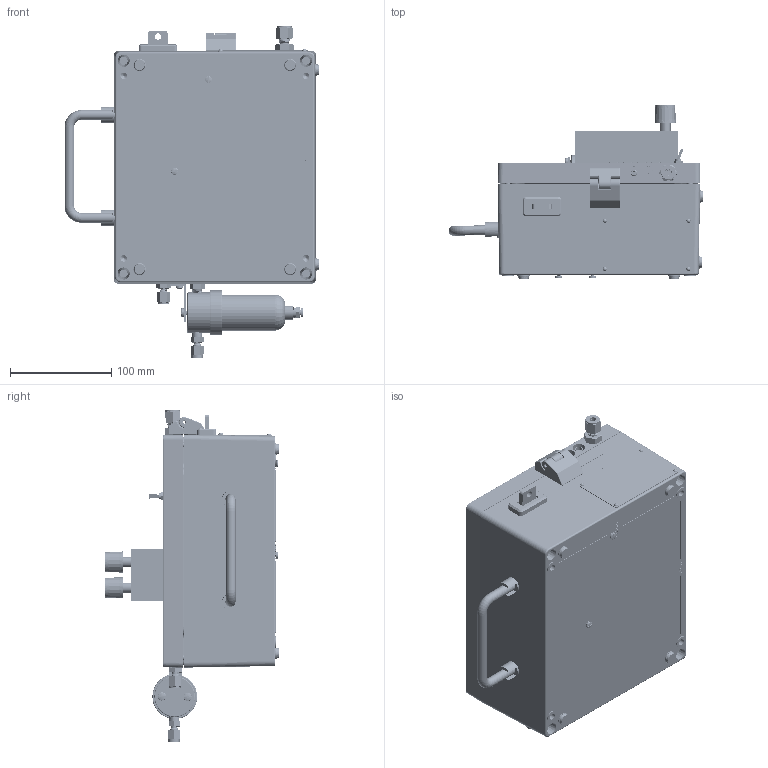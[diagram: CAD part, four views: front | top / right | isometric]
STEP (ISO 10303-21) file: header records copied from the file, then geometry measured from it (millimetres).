
FILE_DESCRIPTION (( 'STEP AP214' ), '1' );
FILE_NAME ('GPR-7100.STEP', '2025-10-16T23:46:51', ( '' ), ( '' ), 'SwSTEP 2.0', 'SolidWorks 2025', '' );
FILE_SCHEMA (( 'AUTOMOTIVE_DESIGN' ));
Length unit declared in the file: inch
Products named in the file (1): GPR-7100
Bounding box: 251.65 x 170.78 x 327.66 mm (x, y, z)
Volume: 1361542.8 mm3; surface area: 667463.3 mm2
Topology: 189 solids, 190 shells, 11097 faces, 30298 edges, 19873 vertices
Faces by surface type: plane 5092, cylinder 3730, bspline 1062, cone 945, sphere 156, torus 112
Entity records: 485752 total; most frequent: CARTESIAN_POINT 218482, ORIENTED_EDGE 60282, DIRECTION 48297, EDGE_CURVE 30141, VERTEX_POINT 19857, VECTOR 17329, LINE 17329, AXIS2_PLACEMENT_3D 15484
